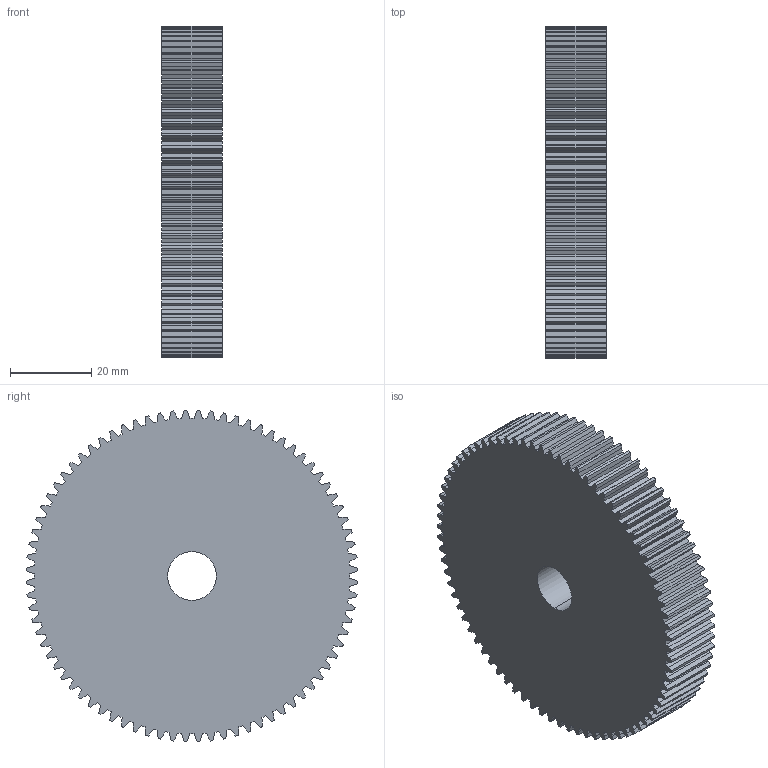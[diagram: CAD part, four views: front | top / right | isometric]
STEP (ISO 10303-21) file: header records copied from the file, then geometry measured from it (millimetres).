
FILE_DESCRIPTION (( 'STEP AP203' ), '1' );
FILE_NAME ('CM 26080.STEP', '2013-09-23T09:00:38', ( '' ), ( '' ), 'SwSTEP 2.0', 'SolidWorks 2010', '' );
FILE_SCHEMA (( 'CONFIG_CONTROL_DESIGN' ));
Length unit declared in the file: millimetre
Products named in the file (1): CM 26080
Bounding box: 15 x 81.96 x 81.96 mm (x, y, z)
Volume: 73280.1 mm3; surface area: 17465.4 mm2
Topology: 1 solids, 1 shells, 484 faces, 1446 edges, 964 vertices
Faces by surface type: plane 322, cylinder 162
Entity records: 16338 total; most frequent: CARTESIAN_POINT 2904, ORIENTED_EDGE 2892, DIRECTION 2737, EDGE_CURVE 1446, VECTOR 1119, LINE 1119, VERTEX_POINT 964, AXIS2_PLACEMENT_3D 809
